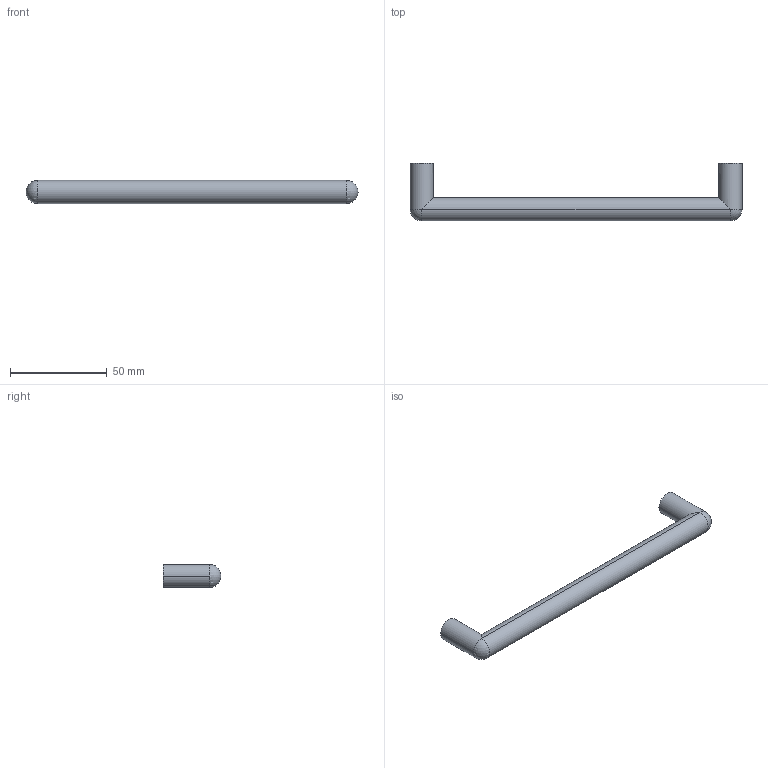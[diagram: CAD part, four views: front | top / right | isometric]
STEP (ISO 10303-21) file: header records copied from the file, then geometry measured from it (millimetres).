
FILE_DESCRIPTION( ( '' ), '1' );
FILE_NAME( 'D:/1.AUTOCAD EXPORT/Group 10/sheet_10_1/ 9070975.stp', '2013-10-17T08:20:16', ( '' ), ( '' ), ' ', ' ', ' ' );
FILE_SCHEMA( ( 'automotive_design' ) );
Length unit declared in the file: millimetre
Products named in the file (1): 1
Bounding box: 172 x 30 x 12 mm (x, y, z)
Volume: 23007.9 mm3; surface area: 8320 mm2
Topology: 1 solids, 1 shells, 16 faces, 36 edges, 20 vertices
Faces by surface type: cylinder 10, plane 4, sphere 2
Entity records: 838 total; most frequent: DIRECTION 88, STYLED_ITEM 69, PRESENTATION_STYLE_ASSIGNMENT 69, CARTESIAN_POINT 69, COLOUR_RGB 69, ORIENTED_EDGE 64, AXIS2_PLACEMENT_3D 39, EDGE_CURVE 32
